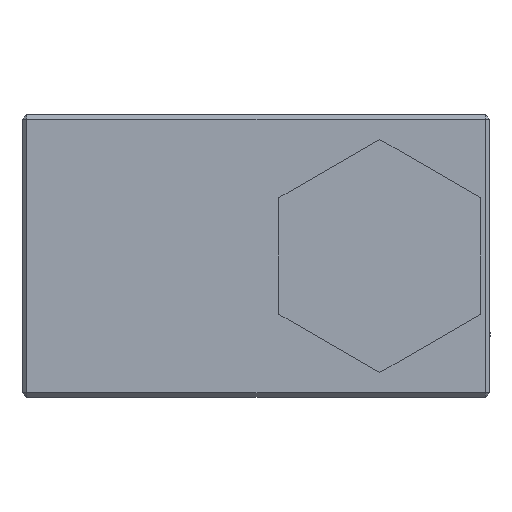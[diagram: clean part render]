
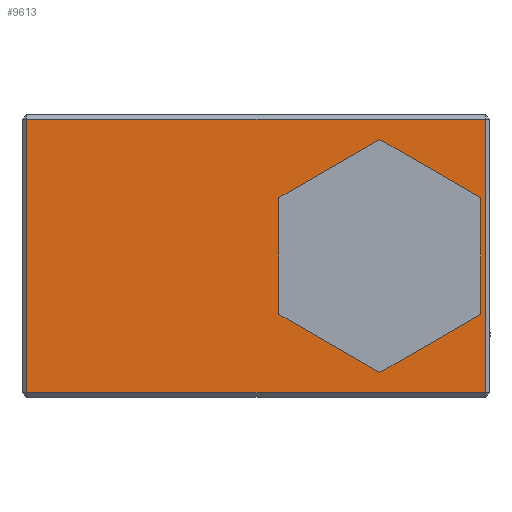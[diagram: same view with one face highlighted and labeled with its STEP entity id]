
A CAD part, front view. The second image highlights one B-rep face of the part: STEP entity #9613.
In plain terms, the highlighted planar face has unit normal (0, -1, 0).
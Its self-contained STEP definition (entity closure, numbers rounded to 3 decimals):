
#285 = CARTESIAN_POINT ( 'NONE',  ( 27., -27.25, -6.351 ) ) ;
#296 = VERTEX_POINT ( 'NONE', #13800 ) ;
#304 = EDGE_CURVE ( 'NONE', #12678, #6878, #1023, .T. ) ;
#306 = DIRECTION ( 'NONE',  ( 0.866, 0., -0.5 ) ) ;
#461 = DIRECTION ( 'NONE',  ( -1., 0., 0. ) ) ;
#729 = VECTOR ( 'NONE', #4843, 1000. ) ;
#1004 = VECTOR ( 'NONE', #306, 1000. ) ;
#1023 = LINE ( 'NONE', #6879, #12858 ) ;
#1147 = FACE_OUTER_BOUND ( 'NONE', #13133, .T. ) ;
#1822 = ORIENTED_EDGE ( 'NONE', *, *, #7952, .F. ) ;
#1874 = LINE ( 'NONE', #10949, #7980 ) ;
#1905 = CARTESIAN_POINT ( 'NONE',  ( 16., -27.25, -12.702 ) ) ;
#2135 = CARTESIAN_POINT ( 'NONE',  ( -23., -27.25, -15.4 ) ) ;
#2303 = DIRECTION ( 'NONE',  ( 0.866, 0., 0.5 ) ) ;
#2438 = EDGE_CURVE ( 'NONE', #296, #2684, #9357, .T. ) ;
#2684 = VERTEX_POINT ( 'NONE', #7833 ) ;
#2923 = DIRECTION ( 'NONE',  ( 0., 0., 1. ) ) ;
#2926 = VECTOR ( 'NONE', #3666, 1000. ) ;
#3263 = EDGE_CURVE ( 'NONE', #6290, #5267, #11300, .T. ) ;
#3335 = PLANE ( 'NONE',  #10534 ) ;
#3343 = DIRECTION ( 'NONE',  ( 1., 0., 0. ) ) ;
#3393 = EDGE_CURVE ( 'NONE', #8337, #11888, #6819, .T. ) ;
#3666 = DIRECTION ( 'NONE',  ( 0., 0., -1. ) ) ;
#3783 = CARTESIAN_POINT ( 'NONE',  ( 27., -27.25, 6.351 ) ) ;
#3863 = VERTEX_POINT ( 'NONE', #13652 ) ;
#3913 = EDGE_CURVE ( 'NONE', #4266, #8337, #8247, .T. ) ;
#4068 = DIRECTION ( 'NONE',  ( 0., 0., -1. ) ) ;
#4266 = VERTEX_POINT ( 'NONE', #1905 ) ;
#4507 = DIRECTION ( 'NONE',  ( 0., -1., 0. ) ) ;
#4843 = DIRECTION ( 'NONE',  ( 0., 0., 1. ) ) ;
#4930 = DIRECTION ( 'NONE',  ( -0.866, 0., 0.5 ) ) ;
#5166 = ORIENTED_EDGE ( 'NONE', *, *, #12077, .F. ) ;
#5229 = CARTESIAN_POINT ( 'NONE',  ( -22.5, -27.25, 14.9 ) ) ;
#5267 = VERTEX_POINT ( 'NONE', #10067 ) ;
#5621 = LINE ( 'NONE', #11691, #2926 ) ;
#5719 = EDGE_CURVE ( 'NONE', #3863, #296, #8765, .T. ) ;
#6259 = ORIENTED_EDGE ( 'NONE', *, *, #304, .T. ) ;
#6290 = VERTEX_POINT ( 'NONE', #14792 ) ;
#6532 = FACE_BOUND ( 'NONE', #8168, .T. ) ;
#6808 = ORIENTED_EDGE ( 'NONE', *, *, #3393, .F. ) ;
#6819 = LINE ( 'NONE', #10508, #729 ) ;
#6877 = CARTESIAN_POINT ( 'NONE',  ( 16., -27.25, -12.702 ) ) ;
#6878 = VERTEX_POINT ( 'NONE', #5229 ) ;
#6879 = CARTESIAN_POINT ( 'NONE',  ( -23., -27.25, 14.9 ) ) ;
#7368 = ORIENTED_EDGE ( 'NONE', *, *, #5719, .F. ) ;
#7418 = ORIENTED_EDGE ( 'NONE', *, *, #11290, .T. ) ;
#7833 = CARTESIAN_POINT ( 'NONE',  ( 5., -27.25, -6.351 ) ) ;
#7896 = VECTOR ( 'NONE', #3343, 1000. ) ;
#7952 = EDGE_CURVE ( 'NONE', #2684, #4266, #10149, .T. ) ;
#7980 = VECTOR ( 'NONE', #2923, 1000. ) ;
#8168 = EDGE_LOOP ( 'NONE', ( #12422, #1822, #13260, #7368, #5166, #6808 ) ) ;
#8247 = LINE ( 'NONE', #6877, #13998 ) ;
#8318 = ORIENTED_EDGE ( 'NONE', *, *, #8856, .T. ) ;
#8337 = VERTEX_POINT ( 'NONE', #285 ) ;
#8765 = LINE ( 'NONE', #10569, #11088 ) ;
#8856 = EDGE_CURVE ( 'NONE', #5267, #12678, #1874, .T. ) ;
#9080 = CARTESIAN_POINT ( 'NONE',  ( 28., -27.25, -14.9 ) ) ;
#9357 = LINE ( 'NONE', #12089, #12051 ) ;
#9613 = ADVANCED_FACE ( 'NONE', ( #6532, #1147 ), #3335, .T. ) ;
#10067 = CARTESIAN_POINT ( 'NONE',  ( 27.5, -27.25, -14.9 ) ) ;
#10149 = LINE ( 'NONE', #14071, #1004 ) ;
#10508 = CARTESIAN_POINT ( 'NONE',  ( 27., -27.25, -6.351 ) ) ;
#10534 = AXIS2_PLACEMENT_3D ( 'NONE', #2135, #4507, #12530 ) ;
#10569 = CARTESIAN_POINT ( 'NONE',  ( 16., -27.25, 12.702 ) ) ;
#10786 = ORIENTED_EDGE ( 'NONE', *, *, #3263, .T. ) ;
#10949 = CARTESIAN_POINT ( 'NONE',  ( 27.5, -27.25, -15.4 ) ) ;
#10992 = VECTOR ( 'NONE', #4930, 1000. ) ;
#11088 = VECTOR ( 'NONE', #11729, 1000. ) ;
#11290 = EDGE_CURVE ( 'NONE', #6878, #6290, #5621, .T. ) ;
#11300 = LINE ( 'NONE', #9080, #7896 ) ;
#11341 = LINE ( 'NONE', #3783, #10992 ) ;
#11691 = CARTESIAN_POINT ( 'NONE',  ( -22.5, -27.25, -15.4 ) ) ;
#11729 = DIRECTION ( 'NONE',  ( -0.866, 0., -0.5 ) ) ;
#11888 = VERTEX_POINT ( 'NONE', #14852 ) ;
#11967 = CARTESIAN_POINT ( 'NONE',  ( 27.5, -27.25, 14.9 ) ) ;
#12051 = VECTOR ( 'NONE', #4068, 1000. ) ;
#12077 = EDGE_CURVE ( 'NONE', #11888, #3863, #11341, .T. ) ;
#12089 = CARTESIAN_POINT ( 'NONE',  ( 5., -27.25, 6.351 ) ) ;
#12422 = ORIENTED_EDGE ( 'NONE', *, *, #3913, .F. ) ;
#12530 = DIRECTION ( 'NONE',  ( 0., 0., -1. ) ) ;
#12678 = VERTEX_POINT ( 'NONE', #11967 ) ;
#12858 = VECTOR ( 'NONE', #461, 1000. ) ;
#13133 = EDGE_LOOP ( 'NONE', ( #7418, #10786, #8318, #6259 ) ) ;
#13260 = ORIENTED_EDGE ( 'NONE', *, *, #2438, .F. ) ;
#13652 = CARTESIAN_POINT ( 'NONE',  ( 16., -27.25, 12.702 ) ) ;
#13800 = CARTESIAN_POINT ( 'NONE',  ( 5., -27.25, 6.351 ) ) ;
#13998 = VECTOR ( 'NONE', #2303, 1000. ) ;
#14071 = CARTESIAN_POINT ( 'NONE',  ( 5., -27.25, -6.351 ) ) ;
#14792 = CARTESIAN_POINT ( 'NONE',  ( -22.5, -27.25, -14.9 ) ) ;
#14852 = CARTESIAN_POINT ( 'NONE',  ( 27., -27.25, 6.351 ) ) ;
